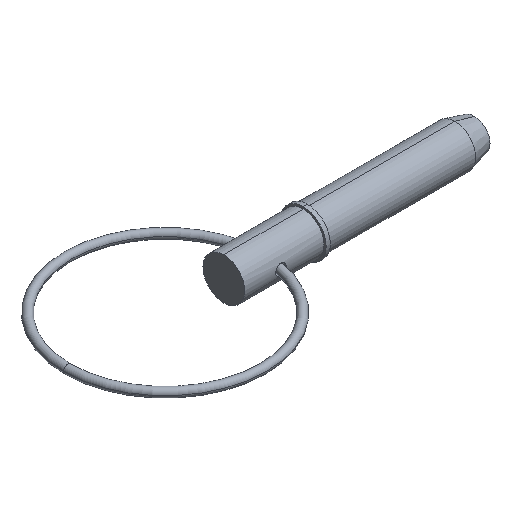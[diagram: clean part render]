
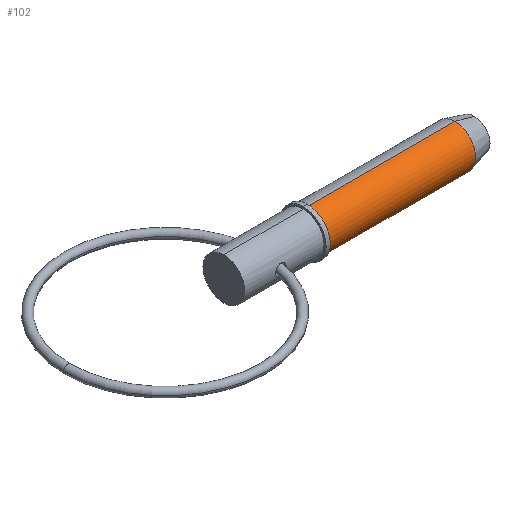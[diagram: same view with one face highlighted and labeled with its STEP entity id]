
A CAD part, isometric view. The second image highlights one B-rep face of the part: STEP entity #102.
In plain terms, the highlighted cylindrical face has radius 4.765 mm (diameter 9.53 mm), a partial arc.
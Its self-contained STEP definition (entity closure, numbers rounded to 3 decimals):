
#12 = DIRECTION ( 'NONE',  ( 1., 0., 0. ) ) ;
#42 = DIRECTION ( 'NONE',  ( 0., 0., -1. ) ) ;
#58 = VECTOR ( 'NONE', #910, 1000. ) ;
#101 = CARTESIAN_POINT ( 'NONE',  ( 0., 0., 4.765 ) ) ;
#102 = ADVANCED_FACE ( 'NONE', ( #491 ), #137, .T. ) ;
#137 = CYLINDRICAL_SURFACE ( 'NONE', #832, 4.765 ) ;
#160 = EDGE_LOOP ( 'NONE', ( #998, #240, #826, #369 ) ) ;
#174 = CIRCLE ( 'NONE', #354, 4.765 ) ;
#219 = AXIS2_PLACEMENT_3D ( 'NONE', #983, #276, #42 ) ;
#225 = DIRECTION ( 'NONE',  ( 1., 0., 0. ) ) ;
#240 = ORIENTED_EDGE ( 'NONE', *, *, #574, .T. ) ;
#276 = DIRECTION ( 'NONE',  ( 1., 0., 0. ) ) ;
#296 = CARTESIAN_POINT ( 'NONE',  ( 52.704, 0., -4.765 ) ) ;
#304 = CARTESIAN_POINT ( 'NONE',  ( 52.704, 0., 0. ) ) ;
#306 = CARTESIAN_POINT ( 'NONE',  ( 0., 0., 0. ) ) ;
#323 = DIRECTION ( 'NONE',  ( 1., 0., 0. ) ) ;
#354 = AXIS2_PLACEMENT_3D ( 'NONE', #304, #225, #856 ) ;
#369 = ORIENTED_EDGE ( 'NONE', *, *, #388, .F. ) ;
#388 = EDGE_CURVE ( 'NONE', #545, #678, #174, .T. ) ;
#448 = LINE ( 'NONE', #583, #58 ) ;
#491 = FACE_OUTER_BOUND ( 'NONE', #160, .T. ) ;
#545 = VERTEX_POINT ( 'NONE', #589 ) ;
#574 = EDGE_CURVE ( 'NONE', #776, #874, #913, .T. ) ;
#580 = CARTESIAN_POINT ( 'NONE',  ( 19.05, 0., -4.765 ) ) ;
#583 = CARTESIAN_POINT ( 'NONE',  ( 0., 0., -4.765 ) ) ;
#589 = CARTESIAN_POINT ( 'NONE',  ( 52.704, 0., 4.765 ) ) ;
#640 = DIRECTION ( 'NONE',  ( 0., 0., -1. ) ) ;
#678 = VERTEX_POINT ( 'NONE', #296 ) ;
#776 = VERTEX_POINT ( 'NONE', #789 ) ;
#789 = CARTESIAN_POINT ( 'NONE',  ( 19.05, 0., 4.765 ) ) ;
#812 = LINE ( 'NONE', #101, #817 ) ;
#817 = VECTOR ( 'NONE', #12, 1000. ) ;
#826 = ORIENTED_EDGE ( 'NONE', *, *, #994, .T. ) ;
#832 = AXIS2_PLACEMENT_3D ( 'NONE', #306, #323, #640 ) ;
#856 = DIRECTION ( 'NONE',  ( 0., 0., -1. ) ) ;
#873 = EDGE_CURVE ( 'NONE', #776, #545, #812, .T. ) ;
#874 = VERTEX_POINT ( 'NONE', #580 ) ;
#910 = DIRECTION ( 'NONE',  ( 1., 0., 0. ) ) ;
#913 = CIRCLE ( 'NONE', #219, 4.765 ) ;
#983 = CARTESIAN_POINT ( 'NONE',  ( 19.05, 0., 0. ) ) ;
#994 = EDGE_CURVE ( 'NONE', #874, #678, #448, .T. ) ;
#998 = ORIENTED_EDGE ( 'NONE', *, *, #873, .F. ) ;
